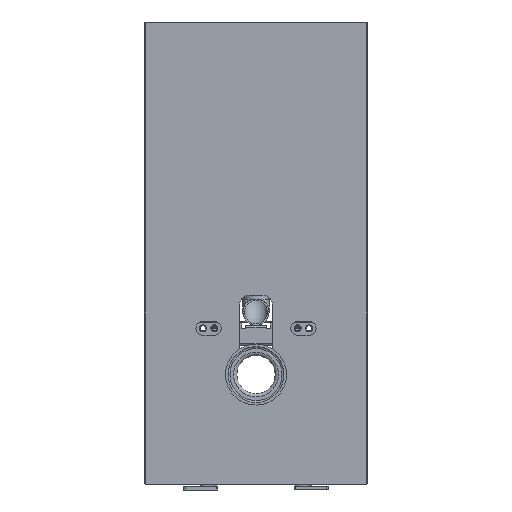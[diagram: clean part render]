
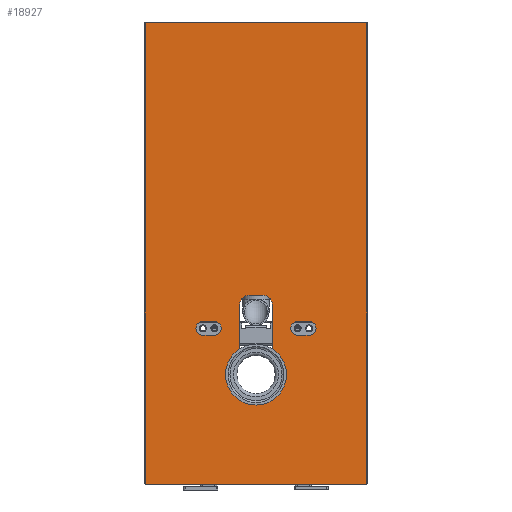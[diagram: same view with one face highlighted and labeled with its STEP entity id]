
A CAD part, front view. The second image highlights one B-rep face of the part: STEP entity #18927.
In plain terms, the highlighted planar face has unit normal (0, -1, 0).
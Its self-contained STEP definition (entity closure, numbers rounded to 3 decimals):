
#163=FACE_BOUND('',#2308,.T.);
#164=FACE_BOUND('',#2309,.T.);
#165=FACE_BOUND('',#2310,.T.);
#350=CIRCLE('',#19971,15.);
#352=CIRCLE('',#19975,15.);
#354=CIRCLE('',#19979,15.);
#356=CIRCLE('',#19983,15.);
#358=CIRCLE('',#19986,20.);
#360=CIRCLE('',#19990,20.);
#362=CIRCLE('',#19994,20.);
#364=CIRCLE('',#19997,60.);
#366=CIRCLE('',#20000,20.);
#373=CIRCLE('',#20021,2.2);
#374=CIRCLE('',#20024,2.2);
#1274=FACE_OUTER_BOUND('',#2307,.T.);
#2307=EDGE_LOOP('',(#11941,#11942,#11943,#11944,#11945,#11946,#11947,#11948));
#2308=EDGE_LOOP('',(#11949,#11950,#11951,#11952));
#2309=EDGE_LOOP('',(#11953,#11954,#11955,#11956));
#2310=EDGE_LOOP('',(#11957,#11958,#11959,#11960,#11961,#11962,#11963,#11964));
#3477=LINE('',#27002,#5461);
#3481=LINE('',#27014,#5465);
#3485=LINE('',#27026,#5469);
#3489=LINE('',#27038,#5473);
#3494=LINE('',#27056,#5478);
#3498=LINE('',#27068,#5482);
#3504=LINE('',#27090,#5488);
#3528=LINE('',#27152,#5512);
#3530=LINE('',#27156,#5514);
#3534=LINE('',#27165,#5518);
#3537=LINE('',#27173,#5521);
#3538=LINE('',#27176,#5522);
#3539=LINE('',#27177,#5523);
#5461=VECTOR('',#21654,25.);
#5465=VECTOR('',#21666,25.);
#5469=VECTOR('',#21678,25.);
#5473=VECTOR('',#21690,25.);
#5478=VECTOR('',#21709,30.);
#5482=VECTOR('',#21721,93.405);
#5488=VECTOR('',#21747,93.405);
#5512=VECTOR('',#21805,0.283);
#5514=VECTOR('',#21809,998.3);
#5518=VECTOR('',#21819,476.);
#5521=VECTOR('',#21828,998.3);
#5522=VECTOR('',#21831,480.);
#5523=VECTOR('',#21832,0.283);
#7445=VERTEX_POINT('',#26999);
#7446=VERTEX_POINT('',#27001);
#7448=VERTEX_POINT('',#27007);
#7450=VERTEX_POINT('',#27013);
#7453=VERTEX_POINT('',#27023);
#7454=VERTEX_POINT('',#27025);
#7456=VERTEX_POINT('',#27031);
#7458=VERTEX_POINT('',#27037);
#7461=VERTEX_POINT('',#27047);
#7462=VERTEX_POINT('',#27049);
#7464=VERTEX_POINT('',#27055);
#7466=VERTEX_POINT('',#27061);
#7468=VERTEX_POINT('',#27067);
#7470=VERTEX_POINT('',#27073);
#7472=VERTEX_POINT('',#27079);
#7474=VERTEX_POINT('',#27085);
#7494=VERTEX_POINT('',#27149);
#7495=VERTEX_POINT('',#27151);
#7496=VERTEX_POINT('',#27155);
#7497=VERTEX_POINT('',#27159);
#7498=VERTEX_POINT('',#27163);
#7499=VERTEX_POINT('',#27167);
#7500=VERTEX_POINT('',#27171);
#7501=VERTEX_POINT('',#27175);
#9137=EDGE_CURVE('',#7446,#7445,#3477,.T.);
#9140=EDGE_CURVE('',#7448,#7446,#350,.T.);
#9143=EDGE_CURVE('',#7450,#7448,#3481,.T.);
#9146=EDGE_CURVE('',#7445,#7450,#352,.T.);
#9149=EDGE_CURVE('',#7454,#7453,#3485,.T.);
#9152=EDGE_CURVE('',#7456,#7454,#354,.T.);
#9155=EDGE_CURVE('',#7458,#7456,#3489,.T.);
#9158=EDGE_CURVE('',#7453,#7458,#356,.T.);
#9161=EDGE_CURVE('',#7462,#7461,#358,.T.);
#9164=EDGE_CURVE('',#7464,#7462,#3494,.T.);
#9167=EDGE_CURVE('',#7466,#7464,#360,.T.);
#9170=EDGE_CURVE('',#7468,#7466,#3498,.T.);
#9173=EDGE_CURVE('',#7470,#7468,#362,.T.);
#9176=EDGE_CURVE('',#7472,#7470,#364,.T.);
#9179=EDGE_CURVE('',#7474,#7472,#366,.T.);
#9182=EDGE_CURVE('',#7461,#7474,#3504,.T.);
#9212=EDGE_CURVE('',#7494,#7495,#3528,.T.);
#9214=EDGE_CURVE('',#7495,#7496,#3530,.T.);
#9217=EDGE_CURVE('',#7496,#7497,#373,.T.);
#9219=EDGE_CURVE('',#7497,#7498,#3534,.T.);
#9221=EDGE_CURVE('',#7498,#7499,#374,.T.);
#9223=EDGE_CURVE('',#7499,#7500,#3537,.T.);
#9224=EDGE_CURVE('',#7501,#7494,#3538,.T.);
#9225=EDGE_CURVE('',#7500,#7501,#3539,.T.);
#11941=ORIENTED_EDGE('',*,*,#9223,.F.);
#11942=ORIENTED_EDGE('',*,*,#9221,.F.);
#11943=ORIENTED_EDGE('',*,*,#9219,.F.);
#11944=ORIENTED_EDGE('',*,*,#9217,.F.);
#11945=ORIENTED_EDGE('',*,*,#9214,.F.);
#11946=ORIENTED_EDGE('',*,*,#9212,.F.);
#11947=ORIENTED_EDGE('',*,*,#9224,.F.);
#11948=ORIENTED_EDGE('',*,*,#9225,.F.);
#11949=ORIENTED_EDGE('',*,*,#9143,.T.);
#11950=ORIENTED_EDGE('',*,*,#9140,.T.);
#11951=ORIENTED_EDGE('',*,*,#9137,.T.);
#11952=ORIENTED_EDGE('',*,*,#9146,.T.);
#11953=ORIENTED_EDGE('',*,*,#9155,.T.);
#11954=ORIENTED_EDGE('',*,*,#9152,.T.);
#11955=ORIENTED_EDGE('',*,*,#9149,.T.);
#11956=ORIENTED_EDGE('',*,*,#9158,.T.);
#11957=ORIENTED_EDGE('',*,*,#9173,.T.);
#11958=ORIENTED_EDGE('',*,*,#9170,.T.);
#11959=ORIENTED_EDGE('',*,*,#9167,.T.);
#11960=ORIENTED_EDGE('',*,*,#9164,.T.);
#11961=ORIENTED_EDGE('',*,*,#9161,.T.);
#11962=ORIENTED_EDGE('',*,*,#9182,.T.);
#11963=ORIENTED_EDGE('',*,*,#9179,.T.);
#11964=ORIENTED_EDGE('',*,*,#9176,.T.);
#17180=PLANE('',#20026);
#18927=ADVANCED_FACE('',(#1274,#163,#164,#165),#17180,.T.);
#19971=AXIS2_PLACEMENT_3D('',#27008,#21660,#21661);
#19975=AXIS2_PLACEMENT_3D('',#27018,#21672,#21673);
#19979=AXIS2_PLACEMENT_3D('',#27032,#21684,#21685);
#19983=AXIS2_PLACEMENT_3D('',#27042,#21696,#21697);
#19986=AXIS2_PLACEMENT_3D('',#27050,#21703,#21704);
#19990=AXIS2_PLACEMENT_3D('',#27062,#21715,#21716);
#19994=AXIS2_PLACEMENT_3D('',#27074,#21727,#21728);
#19997=AXIS2_PLACEMENT_3D('',#27080,#21734,#21735);
#20000=AXIS2_PLACEMENT_3D('',#27086,#21741,#21742);
#20021=AXIS2_PLACEMENT_3D('',#27161,#21814,#21815);
#20024=AXIS2_PLACEMENT_3D('',#27169,#21823,#21824);
#20026=AXIS2_PLACEMENT_3D('',#27174,#21829,#21830);
#21654=DIRECTION('',(1.,0.,0.));
#21660=DIRECTION('center_axis',(0.,1.,0.));
#21661=DIRECTION('ref_axis',(0.,0.,
1.));
#21666=DIRECTION('',(-1.,0.,0.));
#21672=DIRECTION('center_axis',(0.,1.,0.));
#21673=DIRECTION('ref_axis',(0.,0.,
-1.));
#21678=DIRECTION('',(1.,0.,0.));
#21684=DIRECTION('center_axis',(0.,1.,0.));
#21685=DIRECTION('ref_axis',(0.,0.,
1.));
#21690=DIRECTION('',(-1.,0.,0.));
#21696=DIRECTION('center_axis',(0.,1.,0.));
#21697=DIRECTION('ref_axis',(0.,0.,
-1.));
#21703=DIRECTION('center_axis',(0.,1.,0.));
#21704=DIRECTION('ref_axis',(1.,0.,0.));
#21709=DIRECTION('',(1.,0.,0.));
#21715=DIRECTION('center_axis',(0.,1.,0.));
#21716=DIRECTION('ref_axis',(0.,0.,
1.));
#21721=DIRECTION('',(0.,0.,1.));
#21727=DIRECTION('center_axis',(0.,-1.,0.));
#21728=DIRECTION('ref_axis',(-0.687,0.,0.726));
#21734=DIRECTION('center_axis',(0.,1.,0.));
#21735=DIRECTION('ref_axis',(-0.688,0.,0.726));
#21741=DIRECTION('center_axis',(0.,-1.,0.));
#21742=DIRECTION('ref_axis',(1.,0.,0.));
#21747=DIRECTION('',(0.,0.,-1.));
#21805=DIRECTION('',(-0.707,0.,0.707));
#21809=DIRECTION('',(0.,0.,1.));
#21814=DIRECTION('center_axis',(0.,1.,0.));
#21815=DIRECTION('ref_axis',(0.,0.,
1.));
#21819=DIRECTION('',(1.,0.,0.));
#21823=DIRECTION('center_axis',(0.,1.,0.));
#21824=DIRECTION('ref_axis',(1.,0.,0.));
#21828=DIRECTION('',(0.,0.,-1.));
#21829=DIRECTION('center_axis',(0.,-1.,0.));
#21830=DIRECTION('ref_axis',(0.,0.,
-1.));
#21831=DIRECTION('',(-1.,0.,0.));
#21832=DIRECTION('',(-0.707,0.,-0.707));
#26999=CARTESIAN_POINT('',(115.,-105.5,365.));
#27001=CARTESIAN_POINT('',(90.,-105.5,365.));
#27002=CARTESIAN_POINT('',(57.5,-105.5,365.));
#27007=CARTESIAN_POINT('',(90.,-105.5,335.));
#27008=CARTESIAN_POINT('Origin',(90.,-105.5,350.));
#27013=CARTESIAN_POINT('',(115.,-105.5,335.));
#27014=CARTESIAN_POINT('',(45.,-105.5,335.));
#27018=CARTESIAN_POINT('Origin',(115.,-105.5,350.));
#27023=CARTESIAN_POINT('',(-90.,-105.5,365.));
#27025=CARTESIAN_POINT('',(-115.,-105.5,365.));
#27026=CARTESIAN_POINT('',(-45.,-105.5,365.));
#27031=CARTESIAN_POINT('',(-115.,-105.5,335.));
#27032=CARTESIAN_POINT('Origin',(-115.,-105.5,350.));
#27037=CARTESIAN_POINT('',(-90.,-105.5,335.));
#27038=CARTESIAN_POINT('',(-57.5,-105.5,335.));
#27042=CARTESIAN_POINT('Origin',(-90.,-105.5,350.));
#27047=CARTESIAN_POINT('',(35.,-105.5,401.5));
#27049=CARTESIAN_POINT('',(15.,-105.5,421.5));
#27050=CARTESIAN_POINT('Origin',(15.,-105.5,401.5));
#27055=CARTESIAN_POINT('',(-15.,-105.5,421.5));
#27056=CARTESIAN_POINT('',(7.5,-105.5,421.5));
#27061=CARTESIAN_POINT('',(-35.,-105.5,401.5));
#27062=CARTESIAN_POINT('Origin',(-15.,-105.5,401.5));
#27067=CARTESIAN_POINT('',(-35.,-105.5,308.095));
#27068=CARTESIAN_POINT('',(-35.,-105.5,457.006));
#27073=CARTESIAN_POINT('',(-41.25,-105.5,293.571));
#27074=CARTESIAN_POINT('Origin',(-55.,-105.5,308.095));
#27079=CARTESIAN_POINT('',(41.25,-105.5,293.571));
#27080=CARTESIAN_POINT('Origin',(0.,-105.5,250.));
#27085=CARTESIAN_POINT('',(35.,-105.5,308.095));
#27086=CARTESIAN_POINT('Origin',(55.,-105.5,308.095));
#27090=CARTESIAN_POINT('',(35.,-105.5,410.304));
#27149=CARTESIAN_POINT('',(-240.,-105.5,12.));
#27151=CARTESIAN_POINT('',(-240.2,-105.5,12.2));
#27152=CARTESIAN_POINT('',(-241.,-105.5,13.));
#27155=CARTESIAN_POINT('',(-240.2,-105.5,1010.5));
#27156=CARTESIAN_POINT('',(-240.2,-105.5,262.756));
#27159=CARTESIAN_POINT('',(-238.,-105.5,1012.7));
#27161=CARTESIAN_POINT('Origin',(-238.,-105.5,1010.5));
#27163=CARTESIAN_POINT('',(238.,-105.5,1012.7));
#27165=CARTESIAN_POINT('',(-119.,-105.5,1012.7));
#27167=CARTESIAN_POINT('',(240.2,-105.5,1010.5));
#27169=CARTESIAN_POINT('Origin',(238.,-105.5,1010.5));
#27171=CARTESIAN_POINT('',(240.2,-105.5,12.2));
#27173=CARTESIAN_POINT('',(240.2,-105.5,761.506));
#27174=CARTESIAN_POINT('Origin',(0.,-105.5,512.512));
#27175=CARTESIAN_POINT('',(240.,-105.5,12.));
#27176=CARTESIAN_POINT('',(-240.,-105.5,12.));
#27177=CARTESIAN_POINT('',(240.,-105.5,12.));
